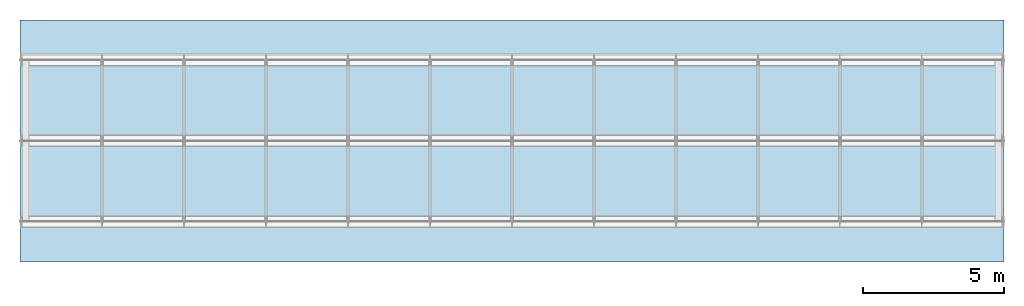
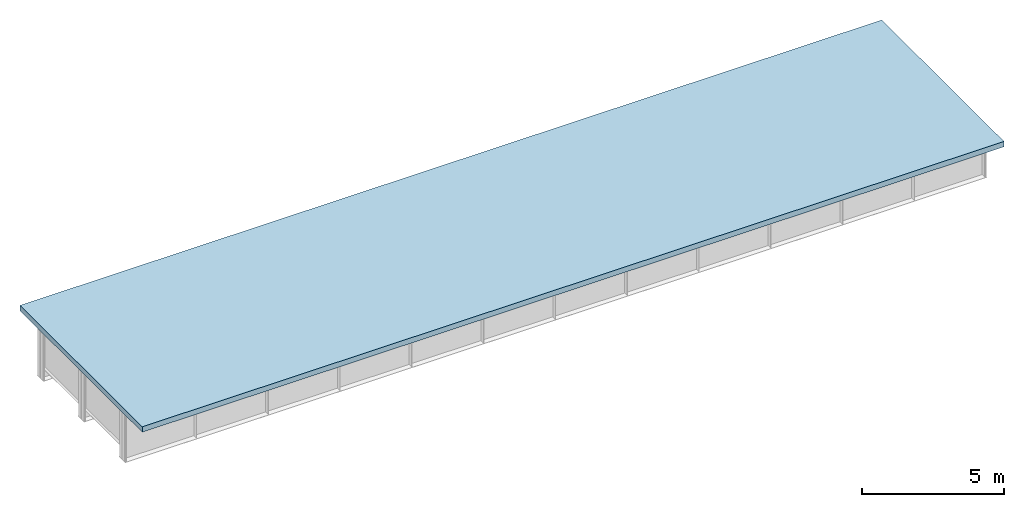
# One storey, part 7 of 11: 1 slab.
"""IFC4 building model written with IfcOpenShell, lengths in metres."""

from ifc_helpers import new_model, si_unit, frame, origin, origin_with_axes, place, context, subcontext, project, spatial, polyline, outline, extrude, element, save


model = new_model("IFC4")

# Units and contexts
model_context = context("Model", 3, precision=1e-05, world=origin())
body_context = subcontext(model_context, "Body", "Model", "MODEL_VIEW")
ifc_project = project(units=[si_unit("LENGTHUNIT", "METRE"), si_unit("AREAUNIT", "SQUARE_METRE"), si_unit("VOLUMEUNIT", "CUBIC_METRE"), si_unit("PLANEANGLEUNIT", "RADIAN")], contexts=[model_context])

# Site, building, storey
site_placement = place(None, origin_with_axes())
site = spatial("IfcSite", under=ifc_project, at=site_placement, Name="Default Site")
building_placement = place(site_placement, origin_with_axes())
building = spatial("IfcBuilding", under=site, at=building_placement, Name="Bridge Structure")
storey_placement = place(building_placement, origin_with_axes())
storey = spatial("IfcBuildingStorey", under=building, at=storey_placement, Name="Superstructure")

# Slab
slab_placement = place(storey_placement, frame((0.0, 0.0, 1.0230000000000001), z_axis=(0.0, 0.0, 1.0), x_axis=(1.0, 0.0, 0.0)))
element("IfcSlab", 1, at=slab_placement, inside=storey, Name="Deck Slab", context=body_context, shape_type="SweptSolid", body=[
    extrude(outline(polyline([(0.0, -4.3), (35.0, -4.3), (35.0, 4.3), (0.0, 4.3), (0.0, -4.3)])), origin_with_axes(), (0.0, 0.0, 1.0), 0.23),
])

save(model, "model.ifc")
